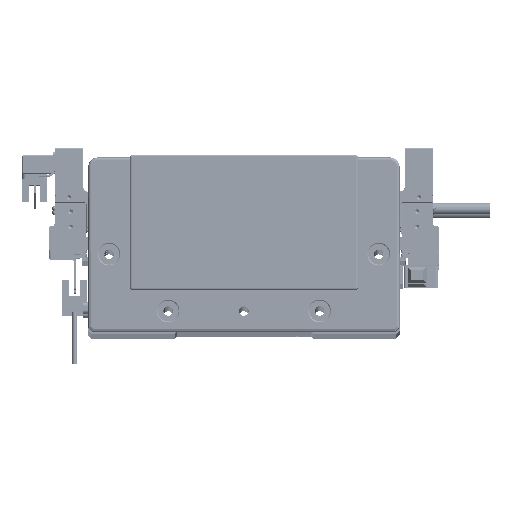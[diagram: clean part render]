
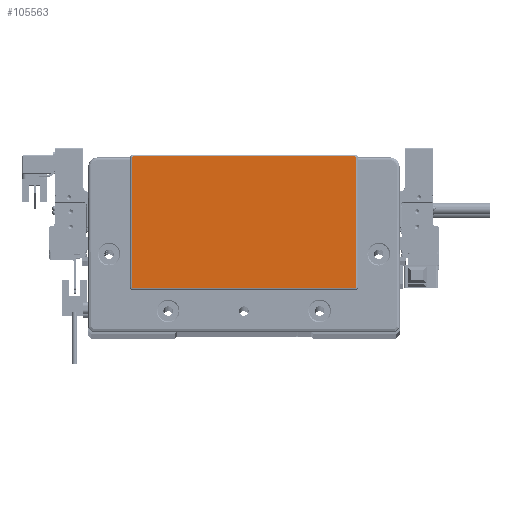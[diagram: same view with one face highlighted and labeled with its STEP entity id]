
A CAD part, top view. The second image highlights one B-rep face of the part: STEP entity #105563.
In plain terms, the highlighted planar face has unit normal (0, 0, 1) as drawn and (0, 0, -1) by its records, which use the part's own axes.
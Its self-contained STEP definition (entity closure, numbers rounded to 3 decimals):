
#3691 = FACE_OUTER_BOUND ( 'NONE', #80501, .T. ) ;
#5508 = CARTESIAN_POINT ( 'NONE',  ( 0., 0., -2. ) ) ;
#9082 = EDGE_CURVE ( 'NONE', #78304, #91069, #37007, .T. ) ;
#11107 = ORIENTED_EDGE ( 'NONE', *, *, #22722, .T. ) ;
#12040 = CARTESIAN_POINT ( 'NONE',  ( 58.75, 45.8, -2. ) ) ;
#13531 = CARTESIAN_POINT ( 'NONE',  ( 58.75, 45.3, -2. ) ) ;
#13766 = CIRCLE ( 'NONE', #63294, 0.5 ) ;
#16525 = CARTESIAN_POINT ( 'NONE',  ( -58.75, -23.8, -2. ) ) ;
#22722 = EDGE_CURVE ( 'NONE', #53233, #78304, #13766, .T. ) ;
#30179 = CARTESIAN_POINT ( 'NONE',  ( -59.25, -23.3, -2. ) ) ;
#32188 = PLANE ( 'NONE',  #58971 ) ;
#35200 = EDGE_CURVE ( 'NONE', #106896, #82972, #90114, .T. ) ;
#35497 = ORIENTED_EDGE ( 'NONE', *, *, #37713, .T. ) ;
#35583 = EDGE_CURVE ( 'NONE', #91069, #50989, #56528, .T. ) ;
#35811 = DIRECTION ( 'NONE',  ( -1., 0., 0. ) ) ;
#37007 = LINE ( 'NONE', #54391, #60056 ) ;
#37713 = EDGE_CURVE ( 'NONE', #82972, #75641, #57231, .T. ) ;
#39351 = CARTESIAN_POINT ( 'NONE',  ( -58.75, 45.3, -2. ) ) ;
#43778 = CARTESIAN_POINT ( 'NONE',  ( 58.75, -23.8, -2. ) ) ;
#45440 = LINE ( 'NONE', #82611, #103950 ) ;
#47879 = CARTESIAN_POINT ( 'NONE',  ( -58.75, -23.3, -2. ) ) ;
#48584 = DIRECTION ( 'NONE',  ( 0., 0., -1. ) ) ;
#50349 = CARTESIAN_POINT ( 'NONE',  ( 58.75, 45.8, -2. ) ) ;
#50989 = VERTEX_POINT ( 'NONE', #30179 ) ;
#51315 = DIRECTION ( 'NONE',  ( 0., 0., -1. ) ) ;
#51970 = DIRECTION ( 'NONE',  ( 0., 0., -1. ) ) ;
#52607 = ORIENTED_EDGE ( 'NONE', *, *, #35583, .T. ) ;
#53233 = VERTEX_POINT ( 'NONE', #56023 ) ;
#54391 = CARTESIAN_POINT ( 'NONE',  ( -58.75, -23.8, -2. ) ) ;
#54658 = ORIENTED_EDGE ( 'NONE', *, *, #35200, .T. ) ;
#56023 = CARTESIAN_POINT ( 'NONE',  ( 59.25, -23.3, -2. ) ) ;
#56265 = CIRCLE ( 'NONE', #107694, 0.5 ) ;
#56528 = CIRCLE ( 'NONE', #121749, 0.5 ) ;
#56560 = DIRECTION ( 'NONE',  ( -1., 0., 0. ) ) ;
#57231 = LINE ( 'NONE', #12040, #88607 ) ;
#57626 = VERTEX_POINT ( 'NONE', #77526 ) ;
#58971 = AXIS2_PLACEMENT_3D ( 'NONE', #5508, #51970, #80469 ) ;
#60056 = VECTOR ( 'NONE', #35811, 1000. ) ;
#63294 = AXIS2_PLACEMENT_3D ( 'NONE', #84532, #48584, #93220 ) ;
#63432 = CARTESIAN_POINT ( 'NONE',  ( -58.75, 45.8, -2. ) ) ;
#65415 = DIRECTION ( 'NONE',  ( 0., 0., -1. ) ) ;
#70944 = ORIENTED_EDGE ( 'NONE', *, *, #96003, .T. ) ;
#73965 = DIRECTION ( 'NONE',  ( 0., 1., 0. ) ) ;
#74254 = VECTOR ( 'NONE', #121239, 1000. ) ;
#75641 = VERTEX_POINT ( 'NONE', #50349 ) ;
#77156 = DIRECTION ( 'NONE',  ( -1., 0., 0. ) ) ;
#77526 = CARTESIAN_POINT ( 'NONE',  ( 59.25, 45.3, -2. ) ) ;
#78304 = VERTEX_POINT ( 'NONE', #43778 ) ;
#80469 = DIRECTION ( 'NONE',  ( -1., 0., 0. ) ) ;
#80501 = EDGE_LOOP ( 'NONE', ( #70944, #11107, #116474, #52607, #81538, #54658, #35497, #106242 ) ) ;
#81538 = ORIENTED_EDGE ( 'NONE', *, *, #97442, .T. ) ;
#82611 = CARTESIAN_POINT ( 'NONE',  ( -59.25, 45.3, -2. ) ) ;
#82972 = VERTEX_POINT ( 'NONE', #63432 ) ;
#83510 = CARTESIAN_POINT ( 'NONE',  ( 59.25, -23.3, -2. ) ) ;
#84099 = LINE ( 'NONE', #83510, #74254 ) ;
#84532 = CARTESIAN_POINT ( 'NONE',  ( 58.75, -23.3, -2. ) ) ;
#88607 = VECTOR ( 'NONE', #96221, 1000. ) ;
#90114 = CIRCLE ( 'NONE', #113756, 0.5 ) ;
#90291 = DIRECTION ( 'NONE',  ( -1., 0., 0. ) ) ;
#91069 = VERTEX_POINT ( 'NONE', #16525 ) ;
#93220 = DIRECTION ( 'NONE',  ( -1., 0., 0. ) ) ;
#94833 = EDGE_CURVE ( 'NONE', #75641, #57626, #56265, .T. ) ;
#96003 = EDGE_CURVE ( 'NONE', #57626, #53233, #84099, .T. ) ;
#96221 = DIRECTION ( 'NONE',  ( 1., 0., 0. ) ) ;
#97442 = EDGE_CURVE ( 'NONE', #50989, #106896, #45440, .T. ) ;
#101472 = CARTESIAN_POINT ( 'NONE',  ( -59.25, 45.3, -2. ) ) ;
#103950 = VECTOR ( 'NONE', #73965, 1000. ) ;
#104813 = DIRECTION ( 'NONE',  ( 0., 0., -1. ) ) ;
#105563 = ADVANCED_FACE ( 'NONE', ( #3691 ), #32188, .T. ) ;
#106242 = ORIENTED_EDGE ( 'NONE', *, *, #94833, .T. ) ;
#106896 = VERTEX_POINT ( 'NONE', #101472 ) ;
#107694 = AXIS2_PLACEMENT_3D ( 'NONE', #13531, #51315, #90291 ) ;
#113756 = AXIS2_PLACEMENT_3D ( 'NONE', #39351, #65415, #77156 ) ;
#116474 = ORIENTED_EDGE ( 'NONE', *, *, #9082, .T. ) ;
#121239 = DIRECTION ( 'NONE',  ( 0., -1., 0. ) ) ;
#121749 = AXIS2_PLACEMENT_3D ( 'NONE', #47879, #104813, #56560 ) ;
